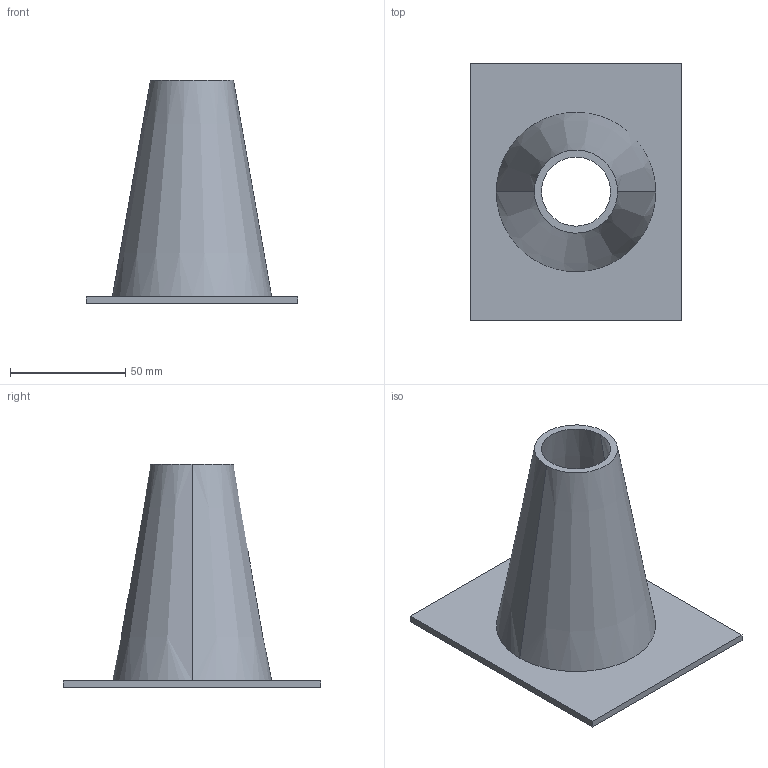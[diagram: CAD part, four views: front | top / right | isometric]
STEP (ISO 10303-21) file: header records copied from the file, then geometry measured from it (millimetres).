
FILE_DESCRIPTION(('CATIA V5 STEP Exchange'),'2;1');
FILE_NAME('C:\_Andres\UNIVERSIDAD\IQS\ASIGNATURAS\DAO\EXF\EXF-15161c\1original\Aranda_Gil_Ej08-ensambla_v2.stp','2016-03-04T21:37:14+00:00',('none'),('none'),'CATIA Version 5 Release 20 SP 1 (IN-10)','CATIA V5 STEP AP203','none');
FILE_SCHEMA(('CONFIG_CONTROL_DESIGN'));
Length unit declared in the file: millimetre
Products named in the file (1): Aranda_Gil_Ej08-ensambla_v2
Bounding box: 92 x 112 x 97 mm (x, y, z)
Volume: 65996.2 mm3; surface area: 45513.5 mm2
Topology: 1 solids, 1 shells, 11 faces, 24 edges, 16 vertices
Faces by surface type: plane 7, cone 4
Entity records: 414 total; most frequent: CARTESIAN_POINT 127, ORIENTED_EDGE 48, DIRECTION 44, EDGE_CURVE 24, AXIS2_PLACEMENT_3D 17, VECTOR 16, LINE 16, VERTEX_POINT 16
